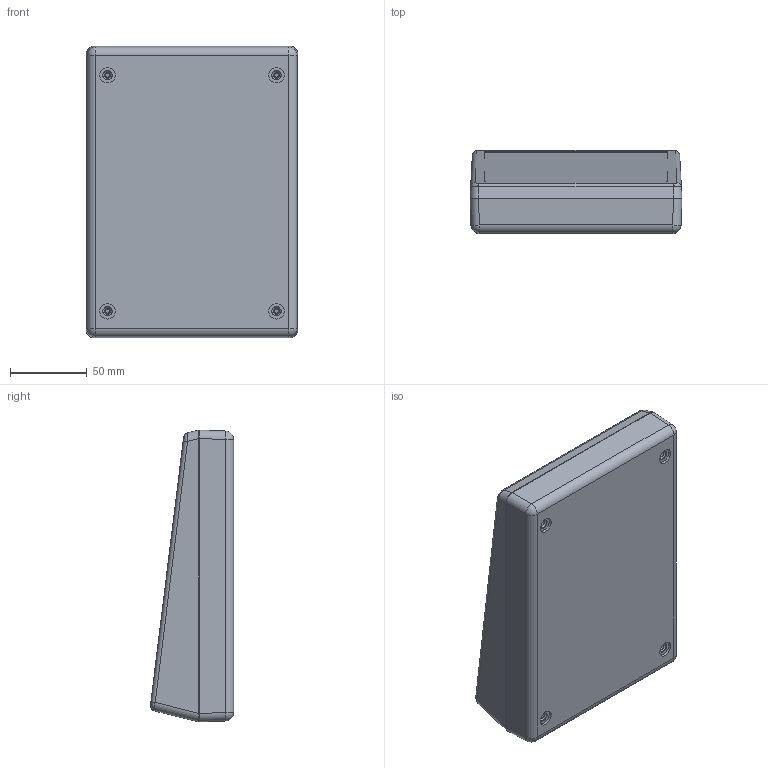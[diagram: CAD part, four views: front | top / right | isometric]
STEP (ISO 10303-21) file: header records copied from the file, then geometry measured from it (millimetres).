
FILE_DESCRIPTION (( 'STEP AP214' ), '1' );
FILE_NAME ('SESL 007 Shallow assembly.STEP', '2023-12-14T19:08:21', ( '' ), ( '' ), 'SwSTEP 2.0', 'SolidWorks 2016', '' );
FILE_SCHEMA (( 'AUTOMOTIVE_DESIGN' ));
Length unit declared in the file: millimetre
Products named in the file (4): SESL 007 Shallow assembly; Threaded insert; SEL Top; SE Bottom shallow
Assembly tree (6 placements, depth 2):
  SESL 007 Shallow assembly
    SE Bottom shallow
    SEL Top
    Threaded insert  x4
Bounding box: 138 x 54.17 x 190 mm (x, y, z)
Volume: 219457.9 mm3; surface area: 164078.5 mm2
Topology: 6 solids, 6 shells, 528 faces, 1355 edges, 875 vertices
Faces by surface type: plane 220, cylinder 216, cone 53, bspline 31, sphere 8
Entity records: 15635 total; most frequent: CARTESIAN_POINT 5006, ORIENTED_EDGE 2244, DIRECTION 2120, EDGE_CURVE 1122, AXIS2_PLACEMENT_3D 737, VERTEX_POINT 725, VECTOR 646, LINE 646
